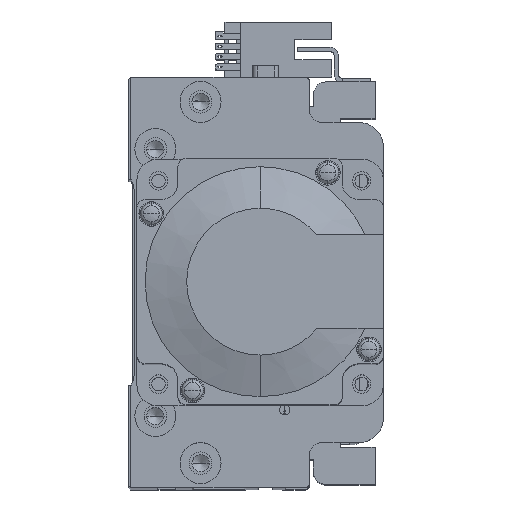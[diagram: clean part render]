
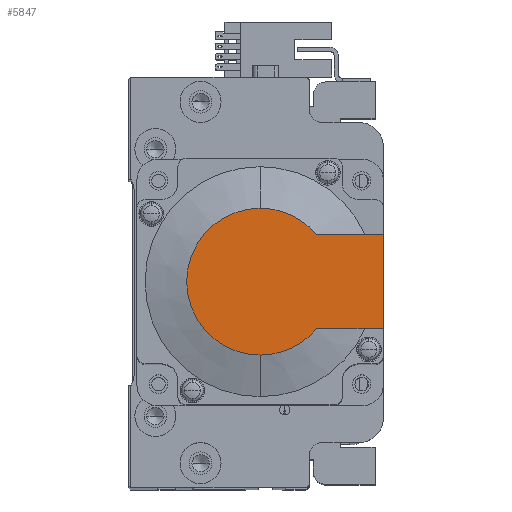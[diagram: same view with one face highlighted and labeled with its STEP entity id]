
A CAD part, top view. The second image highlights one B-rep face of the part: STEP entity #5847.
In plain terms, the highlighted planar face has unit normal (0, 0, 1) as drawn and (-1, 0, 0) by its records, which use the part's own axes.
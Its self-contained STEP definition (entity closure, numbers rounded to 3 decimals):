
#858 = VERTEX_POINT ( 'NONE', #11478 ) ;
#1561 = AXIS2_PLACEMENT_3D ( 'NONE', #12988, #32265, #15781 ) ;
#2388 = DIRECTION ( 'NONE',  ( -1., 0., 0. ) ) ;
#2588 = EDGE_CURVE ( 'NONE', #26649, #35798, #18639, .T. ) ;
#5512 = CARTESIAN_POINT ( 'NONE',  ( -118.5, -8.941, 0. ) ) ;
#5847 = ADVANCED_FACE ( 'NONE', ( #10658 ), #22031, .T. ) ;
#7213 = ORIENTED_EDGE ( 'NONE', *, *, #25458, .F. ) ;
#7907 = CIRCLE ( 'NONE', #1561, 17.881 ) ;
#8131 = ORIENTED_EDGE ( 'NONE', *, *, #2588, .F. ) ;
#8278 = DIRECTION ( 'NONE',  ( 0., 0., 1. ) ) ;
#8447 = LINE ( 'NONE', #29613, #14941 ) ;
#8891 = VERTEX_POINT ( 'NONE', #26542 ) ;
#9782 = ORIENTED_EDGE ( 'NONE', *, *, #24070, .T. ) ;
#10246 = ORIENTED_EDGE ( 'NONE', *, *, #17441, .T. ) ;
#10658 = FACE_OUTER_BOUND ( 'NONE', #21226, .T. ) ;
#10763 = CARTESIAN_POINT ( 'NONE',  ( -118.5, 0., 11.45 ) ) ;
#11169 = VERTEX_POINT ( 'NONE', #25353 ) ;
#11437 = LINE ( 'NONE', #24781, #25255 ) ;
#11478 = CARTESIAN_POINT ( 'NONE',  ( -118.5, 13.735, -11.45 ) ) ;
#12988 = CARTESIAN_POINT ( 'NONE',  ( -118.5, 0., 0. ) ) ;
#12991 = DIRECTION ( 'NONE',  ( -1., 0., 0. ) ) ;
#13009 = VERTEX_POINT ( 'NONE', #31385 ) ;
#13443 = DIRECTION ( 'NONE',  ( 0., -1., 0. ) ) ;
#13763 = AXIS2_PLACEMENT_3D ( 'NONE', #5512, #24808, #8278 ) ;
#13794 = AXIS2_PLACEMENT_3D ( 'NONE', #18942, #2388, #21655 ) ;
#14335 = EDGE_CURVE ( 'NONE', #11169, #8891, #26647, .T. ) ;
#14941 = VECTOR ( 'NONE', #15870, 1000. ) ;
#15219 = AXIS2_PLACEMENT_3D ( 'NONE', #29517, #12991, #32268 ) ;
#15781 = DIRECTION ( 'NONE',  ( 0., 0., -1. ) ) ;
#15870 = DIRECTION ( 'NONE',  ( 0., -1., 0. ) ) ;
#17441 = EDGE_CURVE ( 'NONE', #8891, #35798, #28184, .T. ) ;
#18517 = ORIENTED_EDGE ( 'NONE', *, *, #14335, .T. ) ;
#18639 = LINE ( 'NONE', #10763, #31534 ) ;
#18942 = CARTESIAN_POINT ( 'NONE',  ( -118.5, 0., 0. ) ) ;
#21226 = EDGE_LOOP ( 'NONE', ( #9782, #27573, #18517, #10246, #8131, #7213 ) ) ;
#21655 = DIRECTION ( 'NONE',  ( 0., 0., -1. ) ) ;
#22031 = PLANE ( 'NONE',  #13763 ) ;
#24070 = EDGE_CURVE ( 'NONE', #13009, #858, #8447, .T. ) ;
#24781 = CARTESIAN_POINT ( 'NONE',  ( -118.5, 30., 25. ) ) ;
#24808 = DIRECTION ( 'NONE',  ( -1., 0., 0. ) ) ;
#25255 = VECTOR ( 'NONE', #27591, 1000. ) ;
#25353 = CARTESIAN_POINT ( 'NONE',  ( -118.5, 0., -17.881 ) ) ;
#25458 = EDGE_CURVE ( 'NONE', #13009, #26649, #11437, .T. ) ;
#25951 = CARTESIAN_POINT ( 'NONE',  ( -118.5, 13.735, 11.45 ) ) ;
#26542 = CARTESIAN_POINT ( 'NONE',  ( -118.5, 0., 17.881 ) ) ;
#26647 = CIRCLE ( 'NONE', #15219, 17.881 ) ;
#26649 = VERTEX_POINT ( 'NONE', #34577 ) ;
#27573 = ORIENTED_EDGE ( 'NONE', *, *, #32151, .T. ) ;
#27591 = DIRECTION ( 'NONE',  ( 0., 0., 1. ) ) ;
#28184 = CIRCLE ( 'NONE', #13794, 17.881 ) ;
#29517 = CARTESIAN_POINT ( 'NONE',  ( -118.5, 0., 0. ) ) ;
#29613 = CARTESIAN_POINT ( 'NONE',  ( -118.5, -8.941, -11.45 ) ) ;
#31385 = CARTESIAN_POINT ( 'NONE',  ( -118.5, 30., -11.45 ) ) ;
#31534 = VECTOR ( 'NONE', #13443, 1000. ) ;
#32151 = EDGE_CURVE ( 'NONE', #858, #11169, #7907, .T. ) ;
#32265 = DIRECTION ( 'NONE',  ( -1., 0., 0. ) ) ;
#32268 = DIRECTION ( 'NONE',  ( 0., 0., -1. ) ) ;
#34577 = CARTESIAN_POINT ( 'NONE',  ( -118.5, 30., 11.45 ) ) ;
#35798 = VERTEX_POINT ( 'NONE', #25951 ) ;
